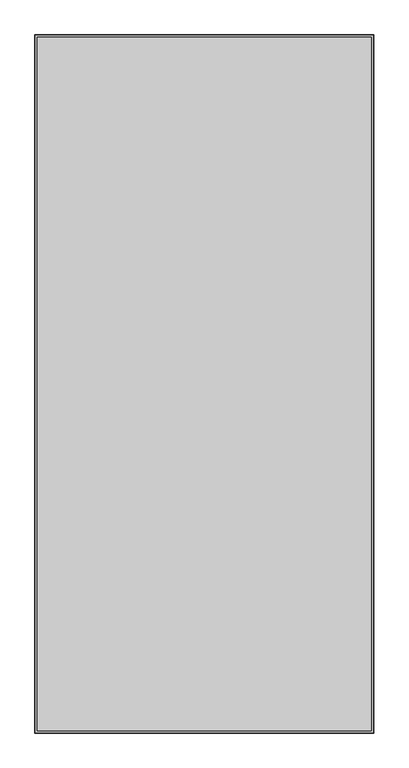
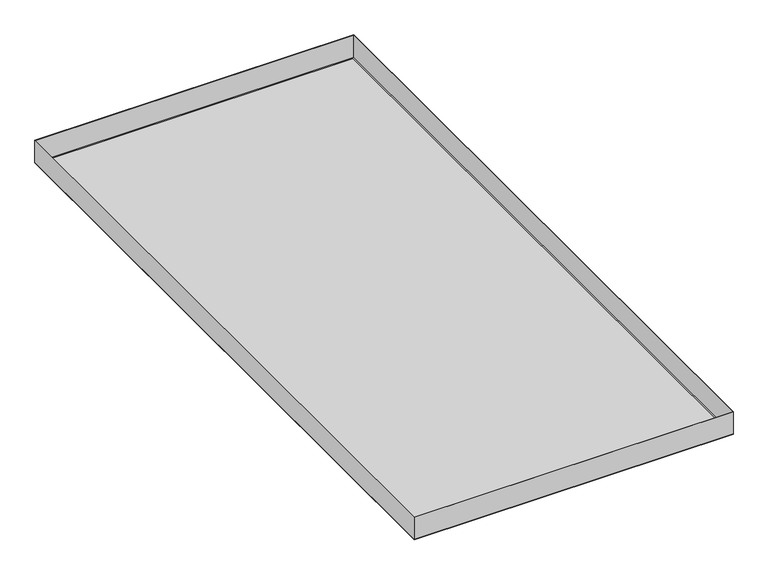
"""IFC4 building model written with IfcOpenShell, lengths in millimetres: proxy geometry, durlum_S7_panel : durlum_S7_panel_wall_length_cut."""

from ifc_helpers import new_model, si_unit, frame, origin, origin_with_axes, place, context, project, spatial, polyline, outline, extrude, source, transform, mapped, element, save


def generic_models_edce5612(model_context):
    return source(origin(), model_context, "Body", "SweptSolid", [
        extrude(outline(polyline([(270.5, 557.5), (270.5, -557.5), (-270.5, -557.5), (-270.5, 557.5), (270.5, 557.5)]), holes=[polyline([(269.9, 556.9), (-269.9, 556.9), (-269.9, -556.9), (269.9, -556.9), (269.9, 556.9)])]), frame((0.0, 0.0, 0.6), z_axis=(0.0, 0.0, 1.0), x_axis=(1.0, 0.0, 0.0)), (0.0, 0.0, 1.0), 39.4),
        extrude(outline(polyline([(266.5, 553.5), (266.5, -553.5), (-266.5, -553.5), (-266.5, 553.5), (266.5, 553.5)])), frame((0.0, 0.0, 0.6), z_axis=(0.0, 0.0, 1.0), x_axis=(1.0, 0.0, 0.0)), (0.0, 0.0, 1.0), 0.6),
        extrude(outline(polyline([(270.5, 557.5), (270.5, -557.5), (-270.5, -557.5), (-270.5, 557.5), (270.5, 557.5)]), holes=[polyline([(266.5, 553.5), (-266.5, 553.5), (-266.5, -553.5), (266.5, -553.5), (266.5, 553.5)])]), origin_with_axes(), (0.0, 0.0, 1.0), 0.6),
        extrude(outline(polyline([(266.5, 553.5), (266.5, -553.5), (-266.5, -553.5), (-266.5, 553.5), (266.5, 553.5)])), origin_with_axes(), (0.0, 0.0, 1.0), 0.6),
    ])


if __name__ == "__main__":
    model = new_model("IFC4")
    model_context = context("Model", 3, world=origin())
    ifc_project = project(units=[si_unit("LENGTHUNIT", "METRE", prefix="MILLI")], contexts=[model_context])
    site = spatial("IfcSite", under=ifc_project)
    building = spatial("IfcBuilding", under=site)
    placement = place(None, origin())
    generic_models_shape = generic_models_edce5612(model_context)
    element("IfcBuildingElementProxy", 1, Name="durlum_S7_panel : durlum_S7_panel_wall_length_cut", ObjectType="durlum_S7_panel : durlum_S7_panel_wall_length_cut", at=placement, inside=building, context=model_context, shape_type="MappedRepresentation", body=[
        mapped(generic_models_shape, transform((0.0, 0.0, 0.0), x_axis=(1.0, 0.0, 0.0), y_axis=(0.0, 1.0, 0.0), z_axis=(0.0, 0.0, 1.0))),
    ])
    save(model, "model.ifc")
